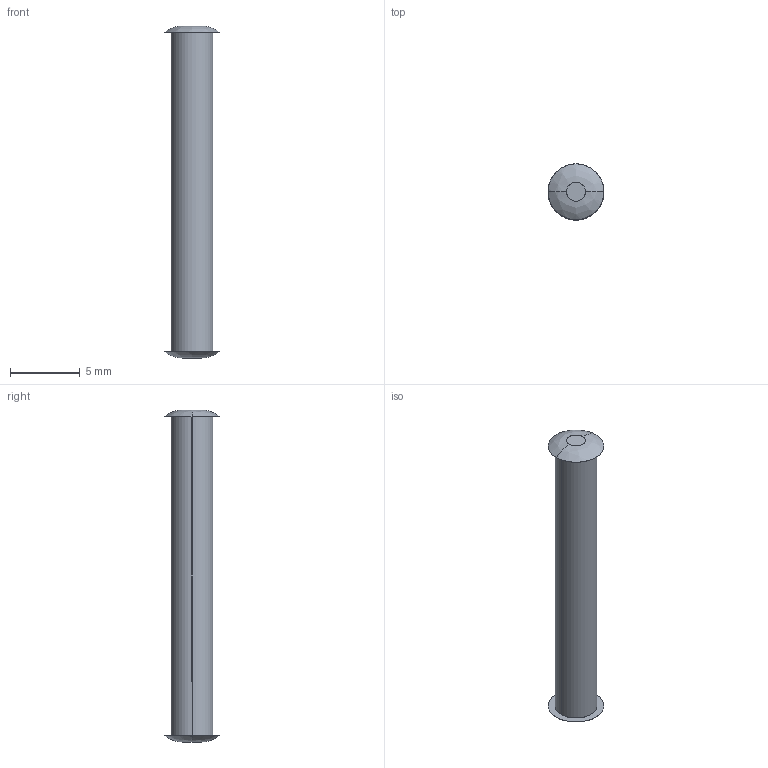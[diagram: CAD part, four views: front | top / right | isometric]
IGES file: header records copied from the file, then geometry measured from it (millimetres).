
Start section: SolidWorks IGES FILE using analytic representation for surfaces
Global section: file name: C:\Documents and Settings\lecoutey\Bureau\GR 62\62.040.010.IGS; native system: SolidWorks 2004 by SolidWorks Corporation; preprocessor: Version 5.3; author: lecoutey; date: 050330.160928; units: millimetre
Bounding box: 4 x 4 x 23.8 mm (x, y, z)
Surface area: 253.6 mm2 (no closed solid volume)
Topology: 0 solids, 0 shells, 10 faces, 184 edges, 184 vertices
Faces by surface type: bspline 8, revolution 2
